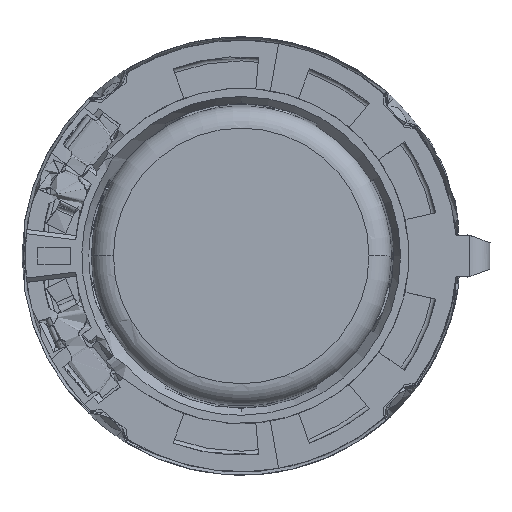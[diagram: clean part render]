
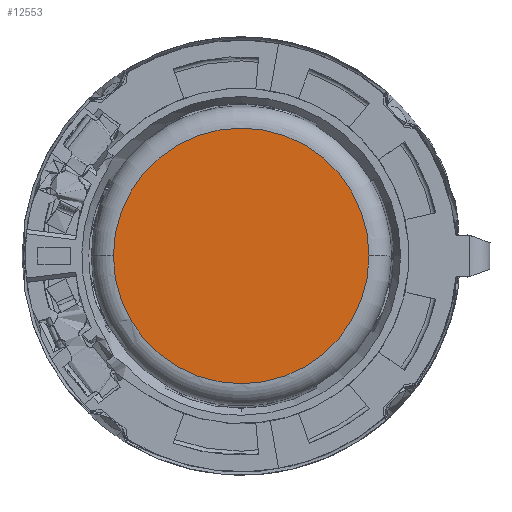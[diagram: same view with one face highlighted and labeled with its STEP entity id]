
A CAD part, top view. The second image highlights one B-rep face of the part: STEP entity #12553.
In plain terms, the highlighted planar face has unit normal (0, 0, 1).
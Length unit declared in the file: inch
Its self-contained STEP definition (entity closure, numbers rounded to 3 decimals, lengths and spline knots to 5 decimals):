
#455=CARTESIAN_POINT('',(0.,0.,0.09843));
#456=DIRECTION('',(0.,0.,1.));
#457=DIRECTION('',(-1.,0.,0.));
#458=AXIS2_PLACEMENT_3D('',#455,#456,#457);
#538=CARTESIAN_POINT('',(0.,0.,0.09843));
#539=DIRECTION('',(0.,0.,1.));
#540=DIRECTION('',(1.,0.,0.));
#541=AXIS2_PLACEMENT_3D('',#538,#539,#540);
#6891=CARTESIAN_POINT('',(-0.18307,0.,
0.09843));
#6892=VERTEX_POINT('',#6891);
#6893=CARTESIAN_POINT('',(0.18307,0.,0.09843));
#6894=VERTEX_POINT('',#6893);
#12544=CARTESIAN_POINT('',(0.,0.,0.09843));
#12545=DIRECTION('',(0.,0.,1.));
#12546=DIRECTION('',(-1.,0.,0.));
#12547=AXIS2_PLACEMENT_3D('',#12544,#12545,#12546);
#12548=PLANE('',#12547);
#12549=ORIENTED_EDGE('',*,*,#8414,.F.);
#12550=ORIENTED_EDGE('',*,*,#8516,.F.);
#12551=EDGE_LOOP('',(#12549,#12550));
#12552=FACE_OUTER_BOUND('',#12551,.F.);
#12553=ADVANCED_FACE('',(#12552),#12548,.T.);
#459=CIRCLE('',#458,0.18307);
#542=CIRCLE('',#541,0.18307);
#8414=EDGE_CURVE('',#6892,#6894,#459,.T.);
#8516=EDGE_CURVE('',#6894,#6892,#542,.T.);
